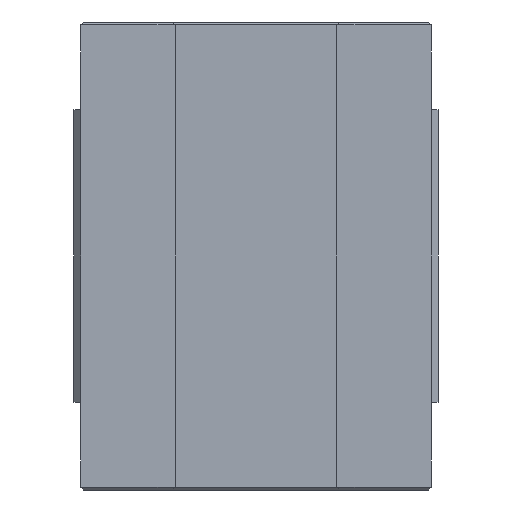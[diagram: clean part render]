
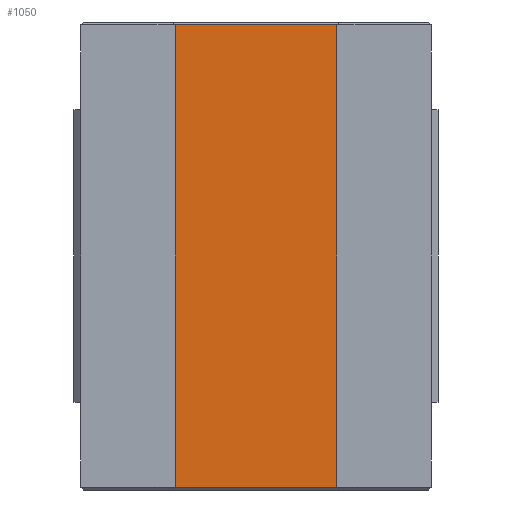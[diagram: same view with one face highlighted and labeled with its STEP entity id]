
A CAD part, front view. The second image highlights one B-rep face of the part: STEP entity #1050.
In plain terms, the highlighted planar face has unit normal (0, -1, 0).
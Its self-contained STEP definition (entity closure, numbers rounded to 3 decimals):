
#72=FACE_OUTER_BOUND('',#134,.T.);
#134=EDGE_LOOP('',(#745,#746,#747,#748));
#215=LINE('',#1546,#347);
#224=LINE('',#1564,#356);
#226=LINE('',#1568,#358);
#227=LINE('',#1569,#359);
#347=VECTOR('',#1247,10.);
#356=VECTOR('',#1262,10.);
#358=VECTOR('',#1266,10.);
#359=VECTOR('',#1267,10.);
#454=VERTEX_POINT('',#1494);
#469=VERTEX_POINT('',#1540);
#476=VERTEX_POINT('',#1563);
#477=VERTEX_POINT('',#1567);
#571=EDGE_CURVE('',#454,#469,#215,.T.);
#580=EDGE_CURVE('',#476,#469,#224,.T.);
#582=EDGE_CURVE('',#477,#454,#226,.T.);
#583=EDGE_CURVE('',#476,#477,#227,.T.);
#745=ORIENTED_EDGE('',*,*,#571,.F.);
#746=ORIENTED_EDGE('',*,*,#582,.F.);
#747=ORIENTED_EDGE('',*,*,#583,.F.);
#748=ORIENTED_EDGE('',*,*,#580,.T.);
#1000=PLANE('',#1132);
#1050=ADVANCED_FACE('',(#72),#1000,.T.);
#1132=AXIS2_PLACEMENT_3D('',#1566,#1264,#1265);
#1247=DIRECTION('',(1.,0.,0.));
#1262=DIRECTION('',(0.,0.,1.));
#1264=DIRECTION('center_axis',(0.,-1.,0.));
#1265=DIRECTION('ref_axis',(1.,0.,0.));
#1266=DIRECTION('',(0.,0.,1.));
#1267=DIRECTION('',(-1.,0.,0.));
#1494=CARTESIAN_POINT('',(-6.,8.,17.15));
#1540=CARTESIAN_POINT('',(6.,8.,17.15));
#1546=CARTESIAN_POINT('',(-3.,8.,17.15));
#1563=CARTESIAN_POINT('',(6.,8.,-17.15));
#1564=CARTESIAN_POINT('',(6.,8.,0.));
#1566=CARTESIAN_POINT('Origin',(-6.,8.,0.));
#1567=CARTESIAN_POINT('',(-6.,8.,-17.15));
#1568=CARTESIAN_POINT('',(-6.,8.,0.));
#1569=CARTESIAN_POINT('',(-3.,8.,-17.15));
